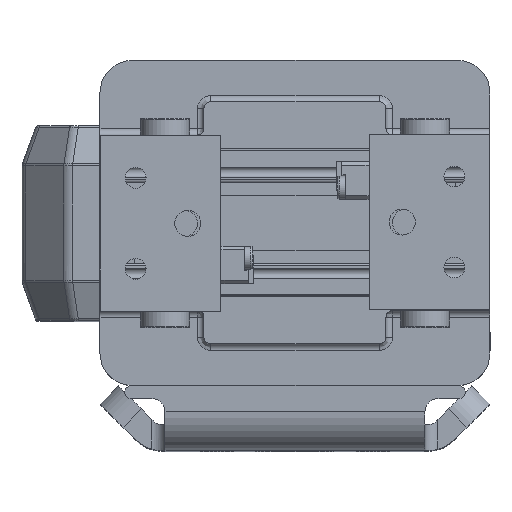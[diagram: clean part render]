
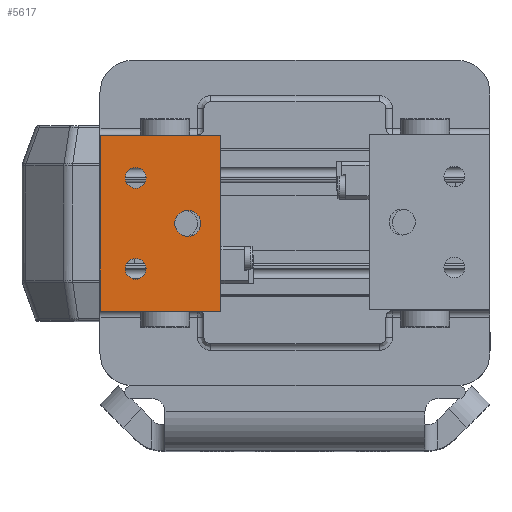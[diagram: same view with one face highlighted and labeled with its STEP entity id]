
A CAD part, top view. The second image highlights one B-rep face of the part: STEP entity #5617.
In plain terms, the highlighted planar face has unit normal (0, 0, 1).
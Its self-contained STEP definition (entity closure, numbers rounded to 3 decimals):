
#15 = CARTESIAN_POINT ( 'NONE',  ( -15., -6.8, 21.5 ) ) ;
#698 = VERTEX_POINT ( 'NONE', #22421 ) ;
#769 = CARTESIAN_POINT ( 'NONE',  ( -12.25, -3.55, 21.5 ) ) ;
#2663 = CARTESIAN_POINT ( 'NONE',  ( -15., -0.05, 21.5 ) ) ;
#2902 = CARTESIAN_POINT ( 'NONE',  ( -10.375, -0.05, 21.5 ) ) ;
#3274 = LINE ( 'NONE', #26550, #16703 ) ;
#3325 = EDGE_LOOP ( 'NONE', ( #21806 ) ) ;
#3329 = CIRCLE ( 'NONE', #19009, 0.8 ) ;
#3807 = CARTESIAN_POINT ( 'NONE',  ( -12.25, -4.35, 21.5 ) ) ;
#4177 = AXIS2_PLACEMENT_3D ( 'NONE', #2902, #4879, #8821 ) ;
#4686 = EDGE_LOOP ( 'NONE', ( #6762 ) ) ;
#4775 = EDGE_CURVE ( 'NONE', #14489, #14489, #3329, .T. ) ;
#4879 = DIRECTION ( 'NONE',  ( 0., 0., 1. ) ) ;
#5011 = FACE_BOUND ( 'NONE', #3325, .T. ) ;
#5617 = ADVANCED_FACE ( 'NONE', ( #19729, #5011, #19594, #13594 ), #26035, .T. ) ;
#6762 = ORIENTED_EDGE ( 'NONE', *, *, #4775, .T. ) ;
#7849 = EDGE_CURVE ( 'NONE', #18162, #14093, #3274, .T. ) ;
#8070 = CARTESIAN_POINT ( 'NONE',  ( -10.375, 6.7, 21.5 ) ) ;
#8812 = CARTESIAN_POINT ( 'NONE',  ( -5.75, -6.8, 21.5 ) ) ;
#8821 = DIRECTION ( 'NONE',  ( 0., -1., 0. ) ) ;
#9001 = CARTESIAN_POINT ( 'NONE',  ( -5.75, 6.7, 21.5 ) ) ;
#9252 = VECTOR ( 'NONE', #10860, 1000. ) ;
#9263 = CARTESIAN_POINT ( 'NONE',  ( -15., 6.7, 21.5 ) ) ;
#9428 = LINE ( 'NONE', #22005, #27275 ) ;
#10702 = ORIENTED_EDGE ( 'NONE', *, *, #20612, .T. ) ;
#10860 = DIRECTION ( 'NONE',  ( -1., 0., 0. ) ) ;
#11248 = DIRECTION ( 'NONE',  ( 0., -1., 0. ) ) ;
#11699 = DIRECTION ( 'NONE',  ( 0., -1., 0. ) ) ;
#12802 = VECTOR ( 'NONE', #11248, 1000. ) ;
#13308 = ORIENTED_EDGE ( 'NONE', *, *, #27488, .T. ) ;
#13594 = FACE_BOUND ( 'NONE', #19821, .T. ) ;
#13671 = DIRECTION ( 'NONE',  ( 0., 0., -1. ) ) ;
#13711 = DIRECTION ( 'NONE',  ( 0., 0., -1. ) ) ;
#14093 = VERTEX_POINT ( 'NONE', #8812 ) ;
#14274 = CIRCLE ( 'NONE', #24548, 1. ) ;
#14489 = VERTEX_POINT ( 'NONE', #3807 ) ;
#14789 = AXIS2_PLACEMENT_3D ( 'NONE', #24273, #13671, #27210 ) ;
#15451 = VERTEX_POINT ( 'NONE', #20053 ) ;
#15731 = DIRECTION ( 'NONE',  ( 0., 1., 0. ) ) ;
#16465 = LINE ( 'NONE', #8070, #9252 ) ;
#16703 = VECTOR ( 'NONE', #24705, 1000. ) ;
#17901 = CIRCLE ( 'NONE', #14789, 0.8 ) ;
#18162 = VERTEX_POINT ( 'NONE', #15 ) ;
#19009 = AXIS2_PLACEMENT_3D ( 'NONE', #769, #13711, #19569 ) ;
#19569 = DIRECTION ( 'NONE',  ( 0., -1., 0. ) ) ;
#19594 = FACE_BOUND ( 'NONE', #4686, .T. ) ;
#19729 = FACE_OUTER_BOUND ( 'NONE', #26682, .T. ) ;
#19821 = EDGE_LOOP ( 'NONE', ( #10702 ) ) ;
#19923 = VERTEX_POINT ( 'NONE', #9263 ) ;
#20053 = CARTESIAN_POINT ( 'NONE',  ( -8.25, -1.05, 21.5 ) ) ;
#20612 = EDGE_CURVE ( 'NONE', #15451, #15451, #14274, .T. ) ;
#21186 = ORIENTED_EDGE ( 'NONE', *, *, #24436, .T. ) ;
#21291 = ORIENTED_EDGE ( 'NONE', *, *, #21933, .T. ) ;
#21806 = ORIENTED_EDGE ( 'NONE', *, *, #22248, .T. ) ;
#21933 = EDGE_CURVE ( 'NONE', #14093, #25339, #9428, .T. ) ;
#22005 = CARTESIAN_POINT ( 'NONE',  ( -5.75, -0.05, 21.5 ) ) ;
#22248 = EDGE_CURVE ( 'NONE', #698, #698, #17901, .T. ) ;
#22314 = CARTESIAN_POINT ( 'NONE',  ( -8.25, -0.05, 21.5 ) ) ;
#22421 = CARTESIAN_POINT ( 'NONE',  ( -12.25, 2.65, 21.5 ) ) ;
#24108 = LINE ( 'NONE', #2663, #12802 ) ;
#24273 = CARTESIAN_POINT ( 'NONE',  ( -12.25, 3.45, 21.5 ) ) ;
#24436 = EDGE_CURVE ( 'NONE', #19923, #18162, #24108, .T. ) ;
#24548 = AXIS2_PLACEMENT_3D ( 'NONE', #22314, #27214, #11699 ) ;
#24705 = DIRECTION ( 'NONE',  ( 1., 0., 0. ) ) ;
#25081 = ORIENTED_EDGE ( 'NONE', *, *, #7849, .T. ) ;
#25339 = VERTEX_POINT ( 'NONE', #9001 ) ;
#26035 = PLANE ( 'NONE',  #4177 ) ;
#26550 = CARTESIAN_POINT ( 'NONE',  ( -10.375, -6.8, 21.5 ) ) ;
#26682 = EDGE_LOOP ( 'NONE', ( #21291, #13308, #21186, #25081 ) ) ;
#27210 = DIRECTION ( 'NONE',  ( 0., -1., 0. ) ) ;
#27214 = DIRECTION ( 'NONE',  ( 0., 0., -1. ) ) ;
#27275 = VECTOR ( 'NONE', #15731, 1000. ) ;
#27488 = EDGE_CURVE ( 'NONE', #25339, #19923, #16465, .T. ) ;
